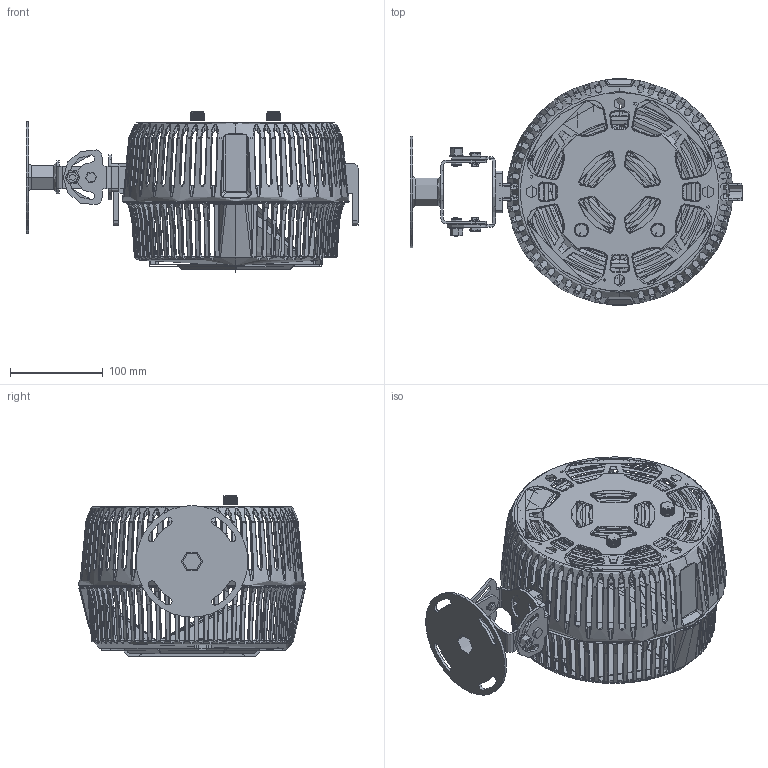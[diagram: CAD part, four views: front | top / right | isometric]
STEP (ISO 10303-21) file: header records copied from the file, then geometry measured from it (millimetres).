
FILE_DESCRIPTION (( 'STEP AP214' ), '1' );
FILE_NAME ('W2KX-PVT-Fixturv2.STEP', '2024-02-29T18:53:28', ( '' ), ( '' ), 'SwSTEP 2.0', 'SolidWorks 2022', '' );
FILE_SCHEMA (( 'AUTOMOTIVE_DESIGN' ));
Length unit declared in the file: millimetre
Products named in the file (14): SCREW, M8 L8 CAP HEAD, HEX SOCKET, SUS, BLACK___.STEP; SCREW, M8 L8 CAP HEAD, HEX SOCKET, SUS, BLACK___^PIVOT Mount____W2KX-PVT-Fixture.STEP; 5022497_X1_Single Arm Base___^PIVOT Mount____W2KX-PVT-Fixture.STEP; 5022531_X1_BOTTOM HOUSING FOR W2K&A2K^W2KX-PVT-Fixture.STEP; 5022498_X1_Single Arm Pivot___^PIVOT Mount____W2KX-PVT-Fixture.STEP; 5022530-2022-01-10___^W2KX-PVT-Fixture.STEP; W2KX-PVT-Fixturv2; 5022642_A2_C Circlip, ID=7.4mm___^PIVOT Mount____W2KX-PVT-Fixture.STEP; PIVOT Mount___^W2KX-PVT-Fixture.STEP; 5022499_X2_Single Arm Pivot Base___^W2KX-PVT-Fixture.STEP; 5022640_A1_Single Arm Axis, L=15mm___^PIVOT Mount____W2KX-PVT-Fixture.STEP; ID8,OD16,T1.5 WASHER___^PIVOT Mount____W2KX-PVT-Fixture.STEP; 5021926_A1_KNOB, 18T, OD=14.9, ID=6, L=10MM___^W2KX-PVT-Fixture.STEP; 5022496_X2_Yoke Adapter___^W2KX-PVT-Fixture.STEP
Assembly tree (19 placements, depth 3):
  W2KX-PVT-Fixturv2
    PIVOT Mount___^W2KX-PVT-Fixture.STEP
      5022497_X1_Single Arm Base___^PIVOT Mount____W2KX-PVT-Fixture.STEP
      5022498_X1_Single Arm Pivot___^PIVOT Mount____W2KX-PVT-Fixture.STEP
      5022640_A1_Single Arm Axis, L=15mm___^PIVOT Mount____W2KX-PVT-Fixture.STEP  x2
      5022642_A2_C Circlip, ID=7.4mm___^PIVOT Mount____W2KX-PVT-Fixture.STEP  x2
      SCREW, M8 L8 CAP HEAD, HEX SOCKET, SUS, BLACK___^PIVOT Mount____W2KX-PVT-Fixture.STEP  x2
      ID8,OD16,T1.5 WASHER___^PIVOT Mount____W2KX-PVT-Fixture.STEP  x2
    5022531_X1_BOTTOM HOUSING FOR W2K&A2K^W2KX-PVT-Fixture.STEP
    5022496_X2_Yoke Adapter___^W2KX-PVT-Fixture.STEP  x2
    5022530-2022-01-10___^W2KX-PVT-Fixture.STEP
    5021926_A1_KNOB, 18T, OD=14.9, ID=6, L=10MM___^W2KX-PVT-Fixture.STEP  x2
    SCREW, M8 L8 CAP HEAD, HEX SOCKET, SUS, BLACK___.STEP
    5022499_X2_Single Arm Pivot Base___^W2KX-PVT-Fixture.STEP
Bounding box: 357 x 243.79 x 172.7 mm (x, y, z)
Topology: 17 solids, 61 shells, 5501 faces, 14411 edges, 8775 vertices
Faces by surface type: bspline 2218, plane 1257, cylinder 1122, cone 460, torus 444
Entity records: 256512 total; most frequent: CARTESIAN_POINT 158608, ORIENTED_EDGE 26089, EDGE_CURVE 13076, DIRECTION 12422, VERTEX_POINT 7906, B_SPLINE_CURVE_WITH_KNOTS 7778, EDGE_LOOP 5272, AXIS2_PLACEMENT_3D 5248
